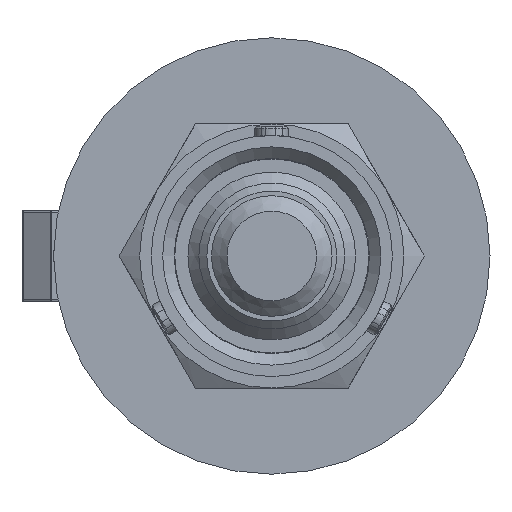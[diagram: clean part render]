
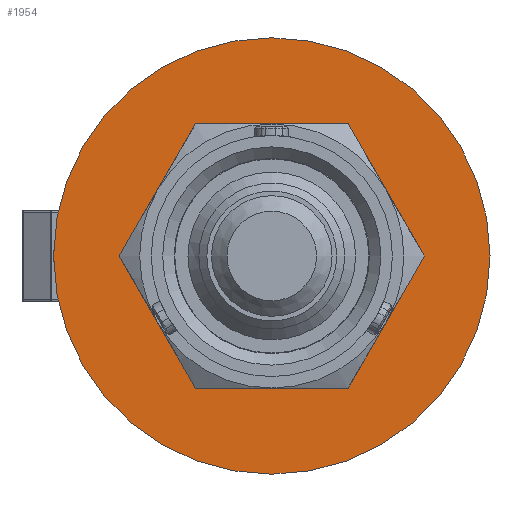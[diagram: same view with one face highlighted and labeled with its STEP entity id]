
A CAD part, front view. The second image highlights one B-rep face of the part: STEP entity #1954.
In plain terms, the highlighted planar face has unit normal (0, -1, 0).
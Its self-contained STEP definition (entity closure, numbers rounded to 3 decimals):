
#47 = CARTESIAN_POINT ( 'NONE',  ( 6.64, 158.25, -11.5 ) ) ;
#94 = DIRECTION ( 'NONE',  ( 0., 1., 0. ) ) ;
#152 = FACE_BOUND ( 'NONE', #2509, .T. ) ;
#267 = CARTESIAN_POINT ( 'NONE',  ( -6.64, 158.25, 11.5 ) ) ;
#425 = DIRECTION ( 'NONE',  ( 0.5, 0., 0.866 ) ) ;
#471 = VECTOR ( 'NONE', #425, 1000. ) ;
#576 = PLANE ( 'NONE',  #1325 ) ;
#585 = VERTEX_POINT ( 'NONE', #2429 ) ;
#613 = LINE ( 'NONE', #267, #1250 ) ;
#710 = EDGE_CURVE ( 'NONE', #2886, #2903, #3770, .T. ) ;
#865 = ORIENTED_EDGE ( 'NONE', *, *, #4919, .F. ) ;
#947 = LINE ( 'NONE', #1400, #3726 ) ;
#949 = DIRECTION ( 'NONE',  ( 1., 0., 0. ) ) ;
#1003 = ORIENTED_EDGE ( 'NONE', *, *, #5159, .F. ) ;
#1092 = CARTESIAN_POINT ( 'NONE',  ( -13.279, 158.25, 0. ) ) ;
#1146 = LINE ( 'NONE', #3638, #3053 ) ;
#1200 = LINE ( 'NONE', #4908, #3978 ) ;
#1250 = VECTOR ( 'NONE', #3534, 1000. ) ;
#1292 = VERTEX_POINT ( 'NONE', #1643 ) ;
#1325 = AXIS2_PLACEMENT_3D ( 'NONE', #2123, #4978, #949 ) ;
#1335 = VECTOR ( 'NONE', #1763, 1000. ) ;
#1338 = CARTESIAN_POINT ( 'NONE',  ( 13.279, 158.25, 0. ) ) ;
#1356 = LINE ( 'NONE', #2563, #1335 ) ;
#1375 = DIRECTION ( 'NONE',  ( 0.5, 0., -0.866 ) ) ;
#1400 = CARTESIAN_POINT ( 'NONE',  ( -13.279, 158.25, 0. ) ) ;
#1643 = CARTESIAN_POINT ( 'NONE',  ( -19., 158.25, 0. ) ) ;
#1763 = DIRECTION ( 'NONE',  ( 1., 0., 0. ) ) ;
#1940 = ORIENTED_EDGE ( 'NONE', *, *, #3573, .F. ) ;
#1954 = ADVANCED_FACE ( 'NONE', ( #152, #3334 ), #576, .T. ) ;
#2020 = DIRECTION ( 'NONE',  ( -1., 0., 0. ) ) ;
#2123 = CARTESIAN_POINT ( 'NONE',  ( 0., 158.25, 0. ) ) ;
#2140 = VERTEX_POINT ( 'NONE', #1092 ) ;
#2419 = CARTESIAN_POINT ( 'NONE',  ( 0., 158.25, 0. ) ) ;
#2429 = CARTESIAN_POINT ( 'NONE',  ( -6.64, 158.25, 11.5 ) ) ;
#2509 = EDGE_LOOP ( 'NONE', ( #1940, #2717, #1003, #3755, #865, #3274 ) ) ;
#2563 = CARTESIAN_POINT ( 'NONE',  ( -6.64, 158.25, -11.5 ) ) ;
#2717 = ORIENTED_EDGE ( 'NONE', *, *, #710, .F. ) ;
#2778 = EDGE_LOOP ( 'NONE', ( #3507 ) ) ;
#2812 = DIRECTION ( 'NONE',  ( -0.5, 0., 0.866 ) ) ;
#2871 = AXIS2_PLACEMENT_3D ( 'NONE', #2419, #94, #2020 ) ;
#2886 = VERTEX_POINT ( 'NONE', #2945 ) ;
#2903 = VERTEX_POINT ( 'NONE', #1338 ) ;
#2945 = CARTESIAN_POINT ( 'NONE',  ( 6.64, 158.25, -11.5 ) ) ;
#3053 = VECTOR ( 'NONE', #4417, 1000. ) ;
#3274 = ORIENTED_EDGE ( 'NONE', *, *, #5055, .F. ) ;
#3334 = FACE_OUTER_BOUND ( 'NONE', #2778, .T. ) ;
#3507 = ORIENTED_EDGE ( 'NONE', *, *, #4519, .F. ) ;
#3534 = DIRECTION ( 'NONE',  ( -0.5, 0., -0.866 ) ) ;
#3573 = EDGE_CURVE ( 'NONE', #2903, #4399, #1200, .T. ) ;
#3638 = CARTESIAN_POINT ( 'NONE',  ( 6.64, 158.25, 11.5 ) ) ;
#3726 = VECTOR ( 'NONE', #1375, 1000. ) ;
#3755 = ORIENTED_EDGE ( 'NONE', *, *, #4554, .F. ) ;
#3770 = LINE ( 'NONE', #47, #471 ) ;
#3817 = CIRCLE ( 'NONE', #2871, 19. ) ;
#3853 = VERTEX_POINT ( 'NONE', #4345 ) ;
#3978 = VECTOR ( 'NONE', #2812, 1000. ) ;
#4345 = CARTESIAN_POINT ( 'NONE',  ( -6.64, 158.25, -11.5 ) ) ;
#4399 = VERTEX_POINT ( 'NONE', #4795 ) ;
#4417 = DIRECTION ( 'NONE',  ( -1., 0., 0. ) ) ;
#4519 = EDGE_CURVE ( 'NONE', #1292, #1292, #3817, .T. ) ;
#4554 = EDGE_CURVE ( 'NONE', #2140, #3853, #947, .T. ) ;
#4795 = CARTESIAN_POINT ( 'NONE',  ( 6.64, 158.25, 11.5 ) ) ;
#4908 = CARTESIAN_POINT ( 'NONE',  ( 13.279, 158.25, 0. ) ) ;
#4919 = EDGE_CURVE ( 'NONE', #585, #2140, #613, .T. ) ;
#4978 = DIRECTION ( 'NONE',  ( 0., -1., 0. ) ) ;
#5055 = EDGE_CURVE ( 'NONE', #4399, #585, #1146, .T. ) ;
#5159 = EDGE_CURVE ( 'NONE', #3853, #2886, #1356, .T. ) ;
